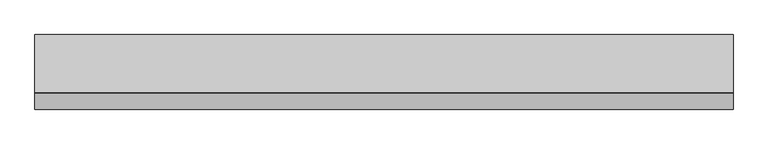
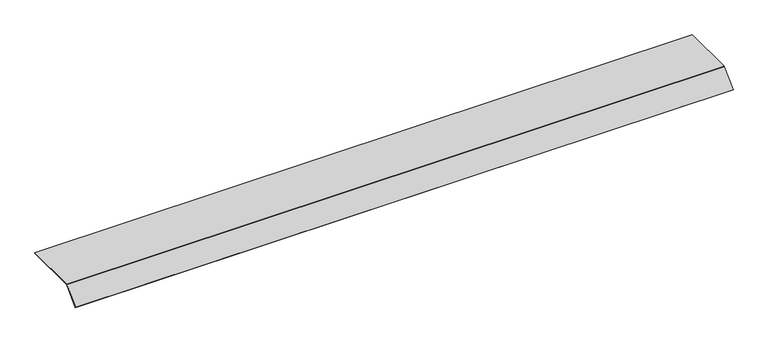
"""IFC4 building model written with IfcOpenShell, lengths in millimetres: proxy geometry, Electrical_Installation_Hager_Blank-Cover-800mm-Single-Sided-Height-70mm : Electrical_Installation_Hager_Blank-Cover-800mm-Single-Sided-Height-70mm."""

from ifc_helpers import new_model, si_unit, point, frame, frame_2d, origin, place, context, project, spatial, polyline, circle_curve, trimmed, segment, composite_curve, outline, extrude, source, transform, mapped, element, save


def electrical_fixtures_90d3c515(model_context):
    return source(origin(), model_context, "Body", "SweptSolid", [
        extrude(outline(composite_curve([segment(polyline([(125.0, 40.5), (125.0, 37.5), (-124.8229541, 37.5)]), True, "CONTINUOUS"), segment(trimmed(circle_curve(frame_2d((-124.8229541, 36.0725733)), 1.4274267), [point((-124.8229541, 37.5))], [point((-125.8322972, 37.0819164))], True, "CARTESIAN"), True, "CONTINUOUS"), segment(polyline([(-125.8322972, 37.0819164), (-193.6627596, -30.7485461), (-195.78408, -28.6272257), (-127.8206472, 39.336207)]), True, "CONTINUOUS"), segment(trimmed(circle_curve(frame_2d((-125.0110025, 36.5265623)), 3.9734377), [point((-127.8206472, 39.336207))], [point((-125.0110025, 40.5))], False, "CARTESIAN"), True, "CONTINUOUS"), segment(polyline([(-125.0110025, 40.5), (125.0, 40.5)]), True, "CONTINUOUS")], self_intersect=False)), frame((0.0, 0.0, 0.0), z_axis=(1.0, 0.0, 0.0), x_axis=(0.0, 1.0, 0.0)), (0.0, 0.0, 1.0), 3000.0),
    ])


if __name__ == "__main__":
    model = new_model("IFC4")
    model_context = context("Model", 3, world=origin())
    ifc_project = project(units=[si_unit("LENGTHUNIT", "METRE", prefix="MILLI")], contexts=[model_context])
    site = spatial("IfcSite", under=ifc_project)
    building = spatial("IfcBuilding", under=site)
    placement = place(None, origin())
    electrical_fixtures_shape = electrical_fixtures_90d3c515(model_context)
    element("IfcBuildingElementProxy", 1, Name="Electrical_Installation_Hager_Blank-Cover-800mm-Single-Sided-Height-70mm : Electrical_Installation_Hager_Blank-Cover-800mm-Single-Sided-Height-70mm", ObjectType="Electrical_Installation_Hager_Blank-Cover-800mm-Single-Sided-Height-70mm : Electrical_Installation_Hager_Blank-Cover-800mm-Single-Sided-Height-70mm", at=placement, inside=building, context=model_context, shape_type="MappedRepresentation", body=[
        mapped(electrical_fixtures_shape, transform((0.0, 0.0, 0.0), x_axis=(1.0, 0.0, 0.0), y_axis=(0.0, 1.0, 0.0), z_axis=(0.0, 0.0, 1.0))),
    ])
    save(model, "model.ifc")
